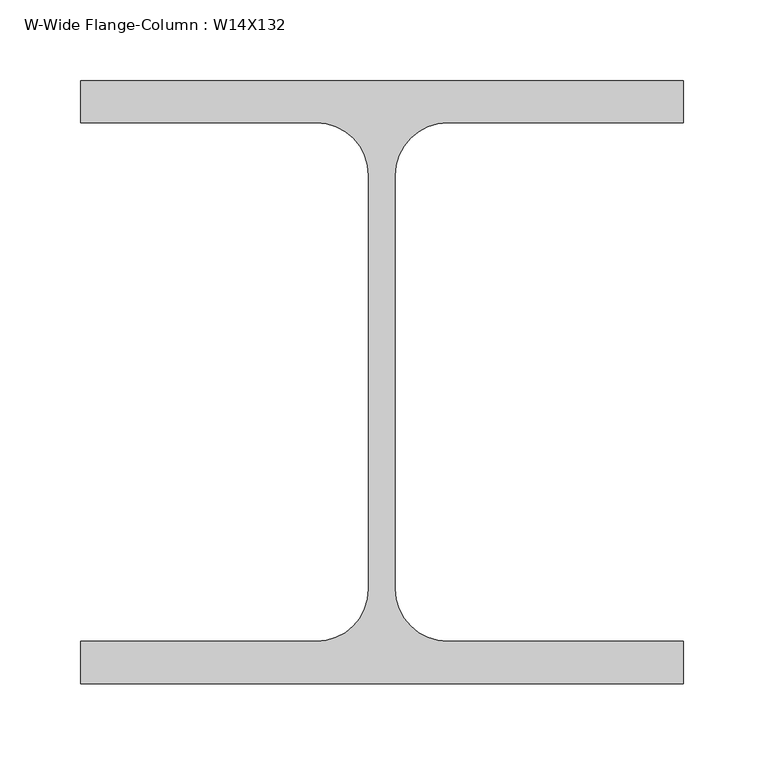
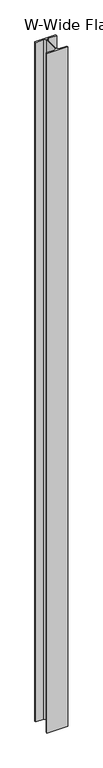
"""IFC4 building model written with IfcOpenShell, lengths in millimetres: column geometry, W-Wide Flange-Column : W14X132."""

from ifc_helpers import new_model, si_unit, point, frame, frame_2d, origin, place, context, project, spatial, polyline, circle_curve, trimmed, segment, composite_curve, outline, extrude, source, transform, mapped, element, save


def w_wide_flange_column_w14x132_ff572278(model_context):
    return source(origin(), model_context, "Body", "SweptSolid", [
        extrude(outline(composite_curve([segment(polyline([(186.69, 186.69), (186.69, 160.528), (40.767, 160.528)]), True, "CONTINUOUS"), segment(trimmed(circle_curve(frame_2d((40.767, 127.9525)), 32.5755), [point((40.767, 160.528))], [point((8.1915, 127.9525))], True, "CARTESIAN"), True, "CONTINUOUS"), segment(polyline([(8.1915, 127.9525), (8.1915, -127.9525)]), True, "CONTINUOUS"), segment(trimmed(circle_curve(frame_2d((40.767, -127.9525)), 32.5755), [point((8.1915, -127.9525))], [point((40.767, -160.528))], True, "CARTESIAN"), True, "CONTINUOUS"), segment(polyline([(40.767, -160.528), (186.69, -160.528), (186.69, -186.69), (-186.69, -186.69), (-186.69, -160.528), (-40.767, -160.528)]), True, "CONTINUOUS"), segment(trimmed(circle_curve(frame_2d((-40.767, -127.9525)), 32.5755), [point((-40.767, -160.528))], [point((-8.1915, -127.9525))], True, "CARTESIAN"), True, "CONTINUOUS"), segment(polyline([(-8.1915, -127.9525), (-8.1915, 127.9525)]), True, "CONTINUOUS"), segment(trimmed(circle_curve(frame_2d((-40.767, 127.9525)), 32.5755), [point((-8.1915, 127.9525))], [point((-40.767, 160.528))], True, "CARTESIAN"), True, "CONTINUOUS"), segment(polyline([(-40.767, 160.528), (-186.69, 160.528), (-186.69, 186.69), (186.69, 186.69)]), True, "CONTINUOUS")], self_intersect=False)), frame((0.0, 0.0, 7493.0), z_axis=(0.0, 0.0, 1.0), x_axis=(1.0, 0.0, 0.0)), (0.0, 0.0, 1.0), 12852.4),
    ])


if __name__ == "__main__":
    model = new_model("IFC4")
    model_context = context("Model", 3, world=origin())
    ifc_project = project(units=[si_unit("LENGTHUNIT", "METRE", prefix="MILLI")], contexts=[model_context])
    site = spatial("IfcSite", under=ifc_project)
    building = spatial("IfcBuilding", under=site)
    placement = place(None, origin())
    w_wide_flange_column_w14x132_shape = w_wide_flange_column_w14x132_ff572278(model_context)
    element("IfcColumn", 1, ObjectType="W-Wide Flange-Column : W14X132", at=placement, inside=building, context=model_context, shape_type="MappedRepresentation", body=[
        mapped(w_wide_flange_column_w14x132_shape, transform((0.0, 0.0, 0.0), x_axis=(1.0, 0.0, 0.0), y_axis=(0.0, 1.0, 0.0), z_axis=(0.0, 0.0, 1.0))),
    ])
    save(model, "model.ifc")
